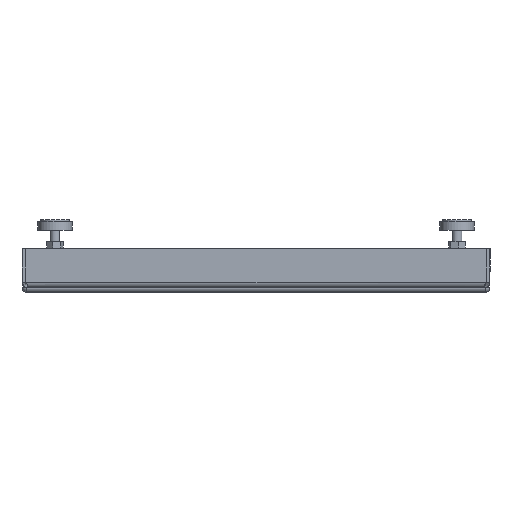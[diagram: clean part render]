
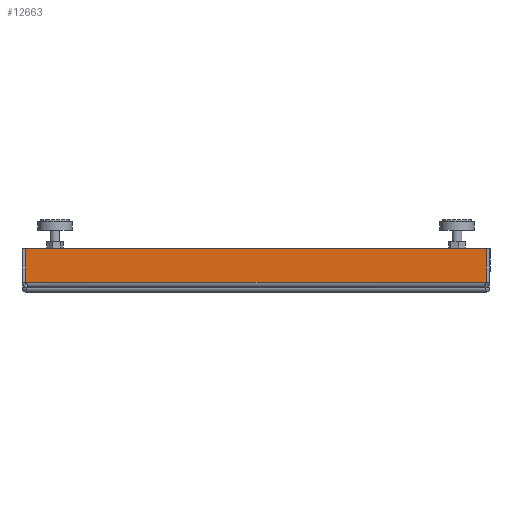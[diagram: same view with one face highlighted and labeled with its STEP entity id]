
A CAD part, left-side view. The second image highlights one B-rep face of the part: STEP entity #12663.
In plain terms, the highlighted planar face has unit normal (-1, 0, 0).
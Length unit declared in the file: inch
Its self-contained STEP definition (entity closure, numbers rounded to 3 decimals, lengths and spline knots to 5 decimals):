
#76 = VECTOR ( 'NONE', #8155, 39.37008 ) ;
#447 = DIRECTION ( 'NONE',  ( 0., 1., 0. ) ) ;
#517 = EDGE_LOOP ( 'NONE', ( #11337, #3184, #9947, #9229 ) ) ;
#657 = LINE ( 'NONE', #4939, #76 ) ;
#1059 = AXIS2_PLACEMENT_3D ( 'NONE', #12760, #11697, #6250 ) ;
#1283 = LINE ( 'NONE', #11080, #10963 ) ;
#1656 = CARTESIAN_POINT ( 'NONE',  ( -12., -11.80493, 0. ) ) ;
#2331 = EDGE_CURVE ( 'NONE', #11280, #9715, #7177, .T. ) ;
#2367 = EDGE_CURVE ( 'NONE', #9715, #9972, #657, .T. ) ;
#3184 = ORIENTED_EDGE ( 'NONE', *, *, #11736, .T. ) ;
#3310 = CARTESIAN_POINT ( 'NONE',  ( -12., 11.80493, 0.263 ) ) ;
#3813 = CARTESIAN_POINT ( 'NONE',  ( -12., -11.80493, 0.263 ) ) ;
#3907 = LINE ( 'NONE', #1656, #5597 ) ;
#4621 = CARTESIAN_POINT ( 'NONE',  ( -12., -11.80493, 2. ) ) ;
#4773 = VECTOR ( 'NONE', #13550, 39.37008 ) ;
#4939 = CARTESIAN_POINT ( 'NONE',  ( -12., 12., 2. ) ) ;
#5597 = VECTOR ( 'NONE', #8170, 39.37008 ) ;
#6250 = DIRECTION ( 'NONE',  ( 0., 0., -1. ) ) ;
#7177 = LINE ( 'NONE', #9267, #4773 ) ;
#8155 = DIRECTION ( 'NONE',  ( 0., -1., 0. ) ) ;
#8170 = DIRECTION ( 'NONE',  ( 0., 0., 1. ) ) ;
#8354 = CARTESIAN_POINT ( 'NONE',  ( -12., 11.80493, 2. ) ) ;
#9229 = ORIENTED_EDGE ( 'NONE', *, *, #2331, .F. ) ;
#9267 = CARTESIAN_POINT ( 'NONE',  ( -12., 11.80493, 0.188 ) ) ;
#9715 = VERTEX_POINT ( 'NONE', #8354 ) ;
#9947 = ORIENTED_EDGE ( 'NONE', *, *, #2367, .F. ) ;
#9972 = VERTEX_POINT ( 'NONE', #4621 ) ;
#10963 = VECTOR ( 'NONE', #447, 39.37008 ) ;
#11061 = VERTEX_POINT ( 'NONE', #3813 ) ;
#11080 = CARTESIAN_POINT ( 'NONE',  ( -12., 12., 0.263 ) ) ;
#11280 = VERTEX_POINT ( 'NONE', #3310 ) ;
#11337 = ORIENTED_EDGE ( 'NONE', *, *, #13101, .F. ) ;
#11555 = FACE_OUTER_BOUND ( 'NONE', #517, .T. ) ;
#11697 = DIRECTION ( 'NONE',  ( 1., 0., 0. ) ) ;
#11736 = EDGE_CURVE ( 'NONE', #11061, #9972, #3907, .T. ) ;
#12663 = ADVANCED_FACE ( 'NONE', ( #11555 ), #13805, .F. ) ;
#12760 = CARTESIAN_POINT ( 'NONE',  ( -12., 0., 0. ) ) ;
#13101 = EDGE_CURVE ( 'NONE', #11061, #11280, #1283, .T. ) ;
#13550 = DIRECTION ( 'NONE',  ( 0., 0., 1. ) ) ;
#13805 = PLANE ( 'NONE',  #1059 ) ;
